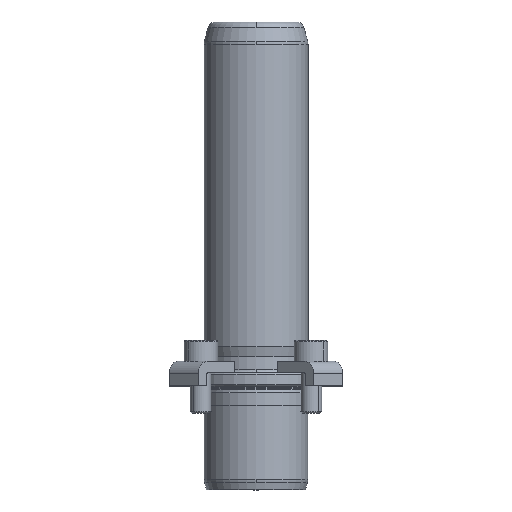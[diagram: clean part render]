
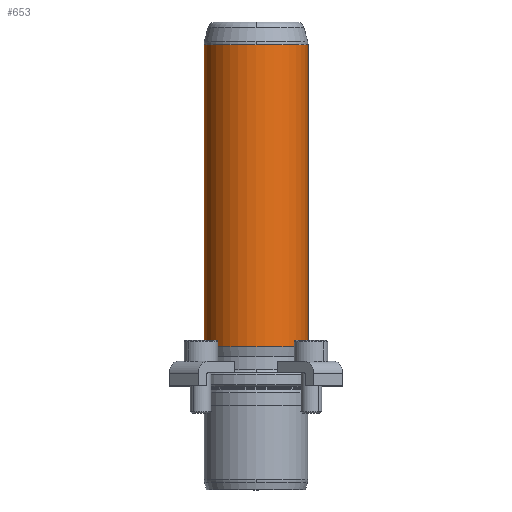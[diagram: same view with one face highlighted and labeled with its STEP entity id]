
A CAD part, front view. The second image highlights one B-rep face of the part: STEP entity #653.
In plain terms, the highlighted cylindrical face has radius 20 mm (diameter 40 mm), a partial arc.
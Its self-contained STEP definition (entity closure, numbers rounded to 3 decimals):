
#566=CARTESIAN_POINT('',(0.0,-20.,131.342));
#567=VERTEX_POINT('',#566);
#594=CARTESIAN_POINT('',(-20.0,0.,131.342));
#595=VERTEX_POINT('',#594);
#603=CARTESIAN_POINT('',(0.0,0.,131.342));
#604=DIRECTION('',(0.0,0.0,1.0));
#605=DIRECTION('',(1.0,0.0,0.0));
#606=AXIS2_PLACEMENT_3D('',#603,#604,#605);
#607=CIRCLE('',#606,20.0);
#608=EDGE_CURVE('',#595,#567,#607,.T.);
#613=CARTESIAN_POINT('',(0.0,0.,73.171));
#614=DIRECTION('',(0.0,0.,1.0));
#615=DIRECTION('',(1.0,0.0,0.0));
#616=AXIS2_PLACEMENT_3D('',#613,#614,#615);
#617=CYLINDRICAL_SURFACE('',#616,20.0);
#618=CARTESIAN_POINT('',(20.0,0.,131.342));
#619=VERTEX_POINT('',#618);
#620=CARTESIAN_POINT('',(20.0,0.,15.0));
#621=VERTEX_POINT('',#620);
#622=CARTESIAN_POINT('',(20.0,0.,131.342));
#623=DIRECTION('',(0.0,0.0,-1.0));
#624=VECTOR('',#623,116.342);
#625=LINE('',#622,#624);
#626=EDGE_CURVE('',#619,#621,#625,.T.);
#627=ORIENTED_EDGE('',*,*,#626,.F.);
#628=CARTESIAN_POINT('',(0.0,0.,131.342));
#629=DIRECTION('',(0.0,0.0,1.0));
#630=DIRECTION('',(1.0,0.0,0.0));
#631=AXIS2_PLACEMENT_3D('',#628,#629,#630);
#632=CIRCLE('',#631,20.0);
#633=EDGE_CURVE('',#567,#619,#632,.T.);
#634=ORIENTED_EDGE('',*,*,#633,.F.);
#635=ORIENTED_EDGE('',*,*,#608,.F.);
#636=CARTESIAN_POINT('',(-20.0,0.,15.0));
#637=VERTEX_POINT('',#636);
#638=CARTESIAN_POINT('',(-20.0,0.,131.342));
#639=DIRECTION('',(0.0,0.0,-1.0));
#640=VECTOR('',#639,116.342);
#641=LINE('',#638,#640);
#642=EDGE_CURVE('',#595,#637,#641,.T.);
#643=ORIENTED_EDGE('',*,*,#642,.T.);
#644=CARTESIAN_POINT('',(0.0,0.,15.0));
#645=DIRECTION('',(0.0,0.0,1.0));
#646=DIRECTION('',(1.0,0.0,0.0));
#647=AXIS2_PLACEMENT_3D('',#644,#645,#646);
#648=CIRCLE('',#647,20.0);
#649=EDGE_CURVE('',#637,#621,#648,.T.);
#650=ORIENTED_EDGE('',*,*,#649,.T.);
#651=EDGE_LOOP('',(#627,#634,#635,#643,#650));
#652=FACE_OUTER_BOUND('',#651,.T.);
#653=ADVANCED_FACE('',(#652),#617,.T.);
